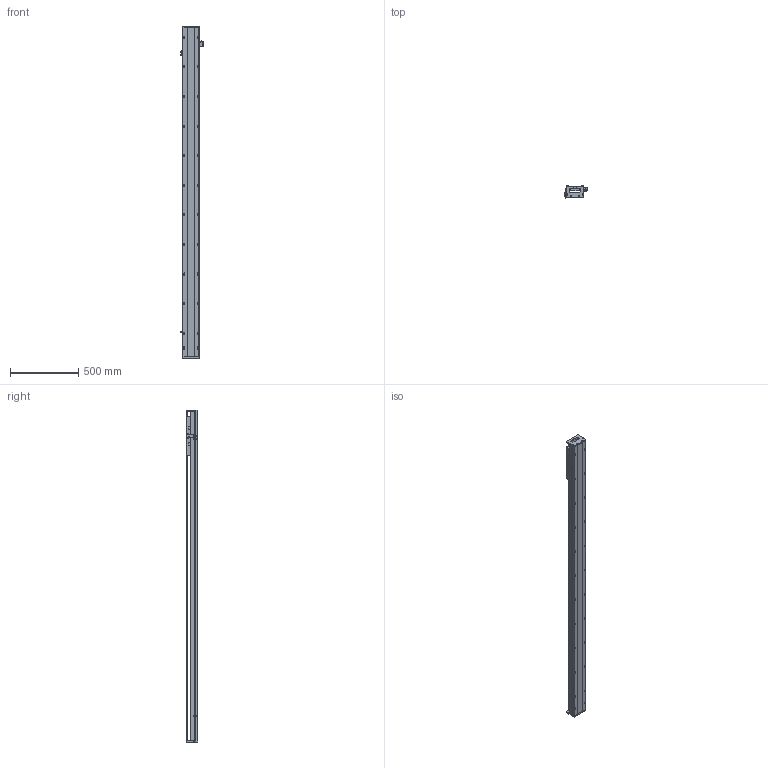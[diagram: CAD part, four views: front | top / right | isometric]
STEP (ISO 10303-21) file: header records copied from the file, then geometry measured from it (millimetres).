
FILE_DESCRIPTION (( 'STEP AP203' ), '1' );
FILE_NAME ('SKR12S-C2-S2044（简）.STEP', '2022-09-26T05:37:25', ( '' ), ( '' ), 'SwSTEP 2.0', 'SolidWorks 2018', '' );
FILE_SCHEMA (( 'CONFIG_CONTROL_DESIGN' ));
Length unit declared in the file: millimetre
Products named in the file (8): SKR12耜啣; 覜茼え; SKR12滑台-280L（简）; SKR12S-C2-S2044（简）; 棠掑假蚾輸; SKR12菁釱-C2-S2044(潠); EE-SX672; SIKO棠掑
Assembly tree (10 placements, depth 2):
  SKR12S-C2-S2044（简）
    SKR12菁釱-C2-S2044(潠)
    SKR12滑台-280L（简）
    SKR12耜啣  x2
    棠掑假蚾輸
    SIKO棠掑
    EE-SX672  x3
    覜茼え
Bounding box: 162.7 x 87.3 x 2424 mm (x, y, z)
Volume: 10654065.8 mm3; surface area: 1664273.7 mm2
Topology: 11 solids, 11 shells, 1140 faces, 3059 edges, 1929 vertices
Faces by surface type: cylinder 558, plane 424, cone 158
Entity records: 32373 total; most frequent: CARTESIAN_POINT 7099, DIRECTION 5207, ORIENTED_EDGE 5034, EDGE_CURVE 2517, AXIS2_PLACEMENT_3D 1949, VERTEX_POINT 1633, VECTOR 1309, LINE 1309
